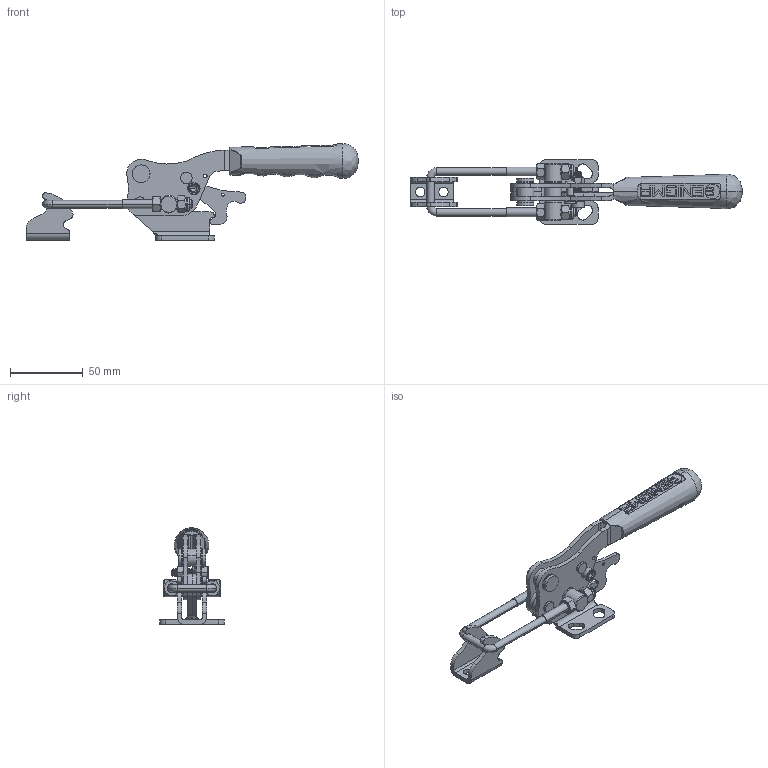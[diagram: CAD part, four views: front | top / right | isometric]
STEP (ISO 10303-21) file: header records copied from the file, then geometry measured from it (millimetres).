
FILE_DESCRIPTION (( 'STEP AP203' ), '1' );
FILE_NAME ('13106_Y_K.STEP', '2022-11-30T12:34:08', ( '' ), ( '' ), 'SwSTEP 2.0', 'SolidWorks 2023', '' );
FILE_SCHEMA (( 'CONFIG_CONTROL_DESIGN' ));
Length unit declared in the file: millimetre
Products named in the file (16): M6x50_U_KANCA_Varsayılan; _X2_00d8_X0_12xM6_U_KANCA_M_X2_0130_X0_L_X2_0130_X0__OTOMATI_Varsay_X2_0131_X0_lan_3; Mirror13206_ALMANYA_HAREKET_KOLU_10.08.22-17.03_3; 13206_ALMANYA_HAREKET_KOLU_10.08.22-17.03_3; M5 Somun_Varsay_X2_0131_X0_lan_1; M5x20 Imbus Civata_1; M6_F_X2_0130_X0_BERL_X2_0130_X0__SOMUN_3; M6_SOMUN_3; _X2_00d8_X0_12x18,7_OTOMAT_3; C90_Yeni_Tutamak_Varsay_X2_0131_X0_lan_3; 13106_K_X2_0130_X0_L_X2_0130_X0_T_MEKAN_X2_0130_X0_ZMASI_09.09.2022 REV_X2_0130_X0_ZYONU_1; 13106_Y_K; Mirror13206_ALMANYA_Y_G_X2_00d6_X0_VDE_10.08.22-16.56_3; M6_KK_3; 13206_ALMANYA_Y_G_X2_00d6_X0_VDE_10.08.22-16.56_3; 5x17_PER_X2_00c70130_X0_N_Varsay_X2_0131_X0_lan_3
Assembly tree (18 placements, depth 2):
  13106_Y_K
    13206_ALMANYA_Y_G_X2_00d6_X0_VDE_10.08.22-16.56_3
    13206_ALMANYA_HAREKET_KOLU_10.08.22-17.03_3
    13106_K_X2_0130_X0_L_X2_0130_X0_T_MEKAN_X2_0130_X0_ZMASI_09.09.2022 REV_X2_0130_X0_ZYONU_1
    C90_Yeni_Tutamak_Varsay_X2_0131_X0_lan_3
    M6_KK_3
    Mirror13206_ALMANYA_HAREKET_KOLU_10.08.22-17.03_3
    Mirror13206_ALMANYA_Y_G_X2_00d6_X0_VDE_10.08.22-16.56_3
    _X2_00d8_X0_12xM6_U_KANCA_M_X2_0130_X0_L_X2_0130_X0__OTOMATI_Varsay_X2_0131_X0_lan_3
    _X2_00d8_X0_12x18,7_OTOMAT_3
    5x17_PER_X2_00c70130_X0_N_Varsay_X2_0131_X0_lan_3  x2
    M5x20 Imbus Civata_1
    M6_F_X2_0130_X0_BERL_X2_0130_X0__SOMUN_3  x2
    M6_SOMUN_3  x2
    M5 Somun_Varsay_X2_0131_X0_lan_1
    M6x50_U_KANCA_Varsayılan
Bounding box: 228.15 x 44.39 x 66.23 mm (x, y, z)
Volume: 70013.2 mm3; surface area: 48752.2 mm2
Topology: 17 solids, 21 shells, 772 faces, 2022 edges, 1301 vertices
Faces by surface type: plane 348, cylinder 269, bspline 83, cone 68, torus 4
Entity records: 48090 total; most frequent: CARTESIAN_POINT 30411, ORIENTED_EDGE 3408, DIRECTION 3128, EDGE_CURVE 1752, VERTEX_POINT 1139, AXIS2_PLACEMENT_3D 1135, LINE 858, VECTOR 858
